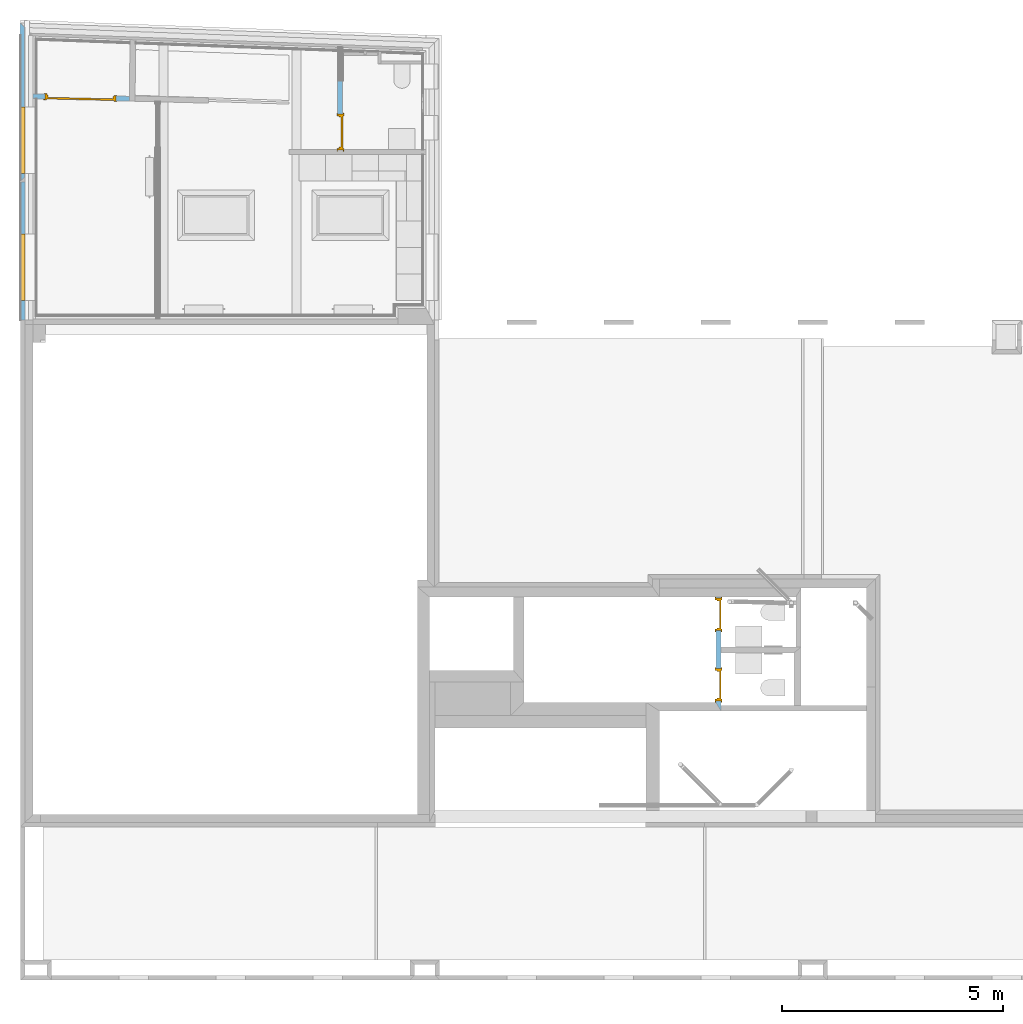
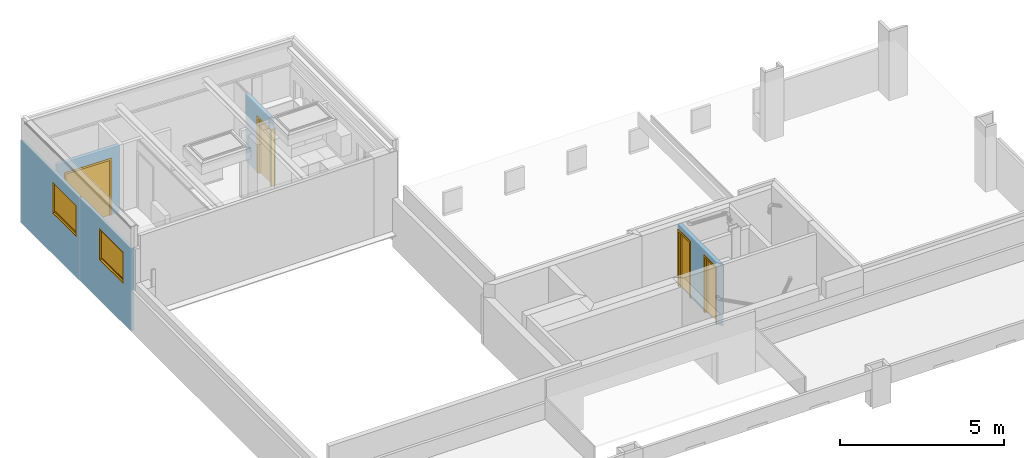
"""IFC2X3 building model written with IfcOpenShell, lengths in metres."""

from ifc_helpers import new_model, entity, si_unit, converted_unit, derived_unit, money_unit, direction, frame, frame_2d, origin_with_axes, place, context, subcontext, project, spatial, polyline, rectangle, outline, extrude, faceted_brep, material, layer, layer_set, layer_usage, type_object, element, fill, save


model = new_model("IFC2X3")

# Units and contexts
model_context = context("Model", 3, precision=1e-05, world=origin_with_axes(), true_north=direction((0.0, 1.0)))
body_context = subcontext(model_context, "Body", "Model", "MODEL_VIEW", scale=1.0)
ifc_project = project(units=[si_unit("LENGTHUNIT", "METRE"), si_unit("AREAUNIT", "SQUARE_METRE"), si_unit("VOLUMEUNIT", "CUBIC_METRE"), si_unit("ABSORBEDDOSEUNIT", "GRAY"), si_unit("AMOUNTOFSUBSTANCEUNIT", "MOLE"), si_unit("DOSEEQUIVALENTUNIT", "SIEVERT"), si_unit("ELECTRICCAPACITANCEUNIT", "FARAD"), si_unit("ELECTRICCHARGEUNIT", "COULOMB"), si_unit("ELECTRICCONDUCTANCEUNIT", "SIEMENS"), si_unit("ELECTRICCURRENTUNIT", "AMPERE"), si_unit("ELECTRICRESISTANCEUNIT", "OHM"), si_unit("ELECTRICVOLTAGEUNIT", "VOLT"), si_unit("ENERGYUNIT", "JOULE"), si_unit("FORCEUNIT", "NEWTON"), si_unit("FREQUENCYUNIT", "HERTZ"), si_unit("ILLUMINANCEUNIT", "LUX"), si_unit("INDUCTANCEUNIT", "HENRY"), si_unit("LUMINOUSFLUXUNIT", "LUMEN"), si_unit("LUMINOUSINTENSITYUNIT", "CANDELA"), si_unit("MAGNETICFLUXDENSITYUNIT", "TESLA"), si_unit("MAGNETICFLUXUNIT", "WEBER"), si_unit("MASSUNIT", "GRAM"), converted_unit("PLANEANGLEUNIT", "degree", entity("IfcReal", 0.0174532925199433), si_unit("PLANEANGLEUNIT", "RADIAN"), dimensions=[0, 0, 0, 0, 0, 0, 0]), si_unit("POWERUNIT", "WATT"), si_unit("PRESSUREUNIT", "PASCAL"), si_unit("RADIOACTIVITYUNIT", "BECQUEREL"), si_unit("SOLIDANGLEUNIT", "STERADIAN"), si_unit("THERMODYNAMICTEMPERATUREUNIT", "KELVIN"), si_unit("TIMEUNIT", "SECOND"), derived_unit("ACCELERATIONUNIT", [(si_unit("LENGTHUNIT", "METRE"), 1), (si_unit("TIMEUNIT", "SECOND"), -2)]), derived_unit("ANGULARVELOCITYUNIT", [(converted_unit("PLANEANGLEUNIT", "degree", entity("IfcReal", 0.0174532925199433), si_unit("PLANEANGLEUNIT", "RADIAN"), dimensions=[0, 0, 0, 0, 0, 0, 0]), 1), (si_unit("TIMEUNIT", "SECOND"), -1)]), derived_unit("CURVATUREUNIT", [(converted_unit("PLANEANGLEUNIT", "degree", entity("IfcReal", 0.0174532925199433), si_unit("PLANEANGLEUNIT", "RADIAN"), dimensions=[0, 0, 0, 0, 0, 0, 0]), 1), (si_unit("LENGTHUNIT", "METRE"), -1)]), derived_unit("DYNAMICVISCOSITYUNIT", [(si_unit("PRESSUREUNIT", "PASCAL"), 1), (si_unit("TIMEUNIT", "SECOND"), 1)]), derived_unit("HEATFLUXDENSITYUNIT", [(si_unit("POWERUNIT", "WATT"), 1), (si_unit("LENGTHUNIT", "METRE"), -2)]), derived_unit("HEATINGVALUEUNIT", [(si_unit("ENERGYUNIT", "JOULE"), 1), (si_unit("MASSUNIT", "GRAM"), -1)]), derived_unit("INTEGERCOUNTRATEUNIT", [(si_unit("TIMEUNIT", "SECOND"), -1)]), derived_unit("IONCONCENTRATIONUNIT", [(si_unit("MASSUNIT", "GRAM"), 1), (si_unit("VOLUMEUNIT", "CUBIC_METRE"), -1)]), derived_unit("ISOTHERMALMOISTURECAPACITYUNIT", [(si_unit("VOLUMEUNIT", "CUBIC_METRE"), 1), (si_unit("MASSUNIT", "GRAM"), -1)]), derived_unit("KINEMATICVISCOSITYUNIT", [(si_unit("AREAUNIT", "SQUARE_METRE"), 1), (si_unit("TIMEUNIT", "SECOND"), -1)]), derived_unit("LINEARFORCEUNIT", [(si_unit("FORCEUNIT", "NEWTON"), 1), (si_unit("LENGTHUNIT", "METRE"), -1)]), derived_unit("LINEARMOMENTUNIT", [(si_unit("FORCEUNIT", "NEWTON"), 1), (si_unit("LENGTHUNIT", "METRE"), -1)]), derived_unit("LINEARSTIFFNESSUNIT", [(si_unit("FORCEUNIT", "NEWTON"), 1), (si_unit("LENGTHUNIT", "METRE"), -1)]), derived_unit("LINEARVELOCITYUNIT", [(si_unit("LENGTHUNIT", "METRE"), 1), (si_unit("TIMEUNIT", "SECOND"), -1)]), derived_unit("LUMINOUSINTENSITYDISTRIBUTIONUNIT", [(si_unit("LUMINOUSINTENSITYUNIT", "CANDELA"), 1), (si_unit("LUMINOUSFLUXUNIT", "LUMEN"), -1)]), derived_unit("MASSDENSITYUNIT", [(si_unit("MASSUNIT", "GRAM"), 1), (si_unit("VOLUMEUNIT", "CUBIC_METRE"), -1)]), derived_unit("MASSFLOWRATEUNIT", [(si_unit("MASSUNIT", "GRAM"), 1), (si_unit("TIMEUNIT", "SECOND"), -1)]), derived_unit("MASSPERLENGTHUNIT", [(si_unit("MASSUNIT", "GRAM"), 1), (si_unit("LENGTHUNIT", "METRE"), -1)]), derived_unit("MODULUSOFELASTICITYUNIT", [(si_unit("FORCEUNIT", "NEWTON"), 1), (si_unit("AREAUNIT", "SQUARE_METRE"), -1)]), derived_unit("MODULUSOFLINEARSUBGRADEREACTIONUNIT", [(si_unit("FORCEUNIT", "NEWTON"), 1), (si_unit("LENGTHUNIT", "METRE"), -2)]), derived_unit("MODULUSOFROTATIONALSUBGRADEREACTIONUNIT", [(si_unit("FORCEUNIT", "NEWTON"), 1), (si_unit("LENGTHUNIT", "METRE"), 1)]), derived_unit("MODULUSOFSUBGRADEREACTIONUNIT", [(si_unit("FORCEUNIT", "NEWTON"), 1), (si_unit("VOLUMEUNIT", "CUBIC_METRE"), -1)]), derived_unit("MOISTUREDIFFUSIVITYUNIT", [(si_unit("VOLUMEUNIT", "CUBIC_METRE"), 1), (si_unit("TIMEUNIT", "SECOND"), -1)]), derived_unit("MOLECULARWEIGHTUNIT", [(si_unit("MASSUNIT", "GRAM"), 1), (si_unit("AMOUNTOFSUBSTANCEUNIT", "MOLE"), -1)]), derived_unit("PLANARFORCEUNIT", [(si_unit("FORCEUNIT", "NEWTON"), 1), (si_unit("LENGTHUNIT", "METRE"), -2)]), derived_unit("ROTATIONALFREQUENCYUNIT", [(si_unit("TIMEUNIT", "SECOND"), -1)]), derived_unit("ROTATIONALMASSUNIT", [(si_unit("MASSUNIT", "GRAM"), 1), (si_unit("LENGTHUNIT", "METRE"), 2)]), derived_unit("ROTATIONALSTIFFNESSUNIT", [(si_unit("FORCEUNIT", "NEWTON"), 1), (si_unit("LENGTHUNIT", "METRE"), 1), (converted_unit("PLANEANGLEUNIT", "degree", entity("IfcReal", 0.0174532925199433), si_unit("PLANEANGLEUNIT", "RADIAN"), dimensions=[0, 0, 0, 0, 0, 0, 0]), -1)]), derived_unit("SECTIONAREAINTEGRALUNIT", [(si_unit("LENGTHUNIT", "METRE"), 5)]), derived_unit("SECTIONMODULUSUNIT", [(si_unit("LENGTHUNIT", "METRE"), 3)]), derived_unit("SHEARMODULUSUNIT", [(si_unit("FORCEUNIT", "NEWTON"), 1), (si_unit("AREAUNIT", "SQUARE_METRE"), -1)]), derived_unit("SOUNDPOWERUNIT", [(si_unit("ENERGYUNIT", "JOULE"), 1), (si_unit("TIMEUNIT", "SECOND"), -1)]), derived_unit("SPECIFICHEATCAPACITYUNIT", [(si_unit("FORCEUNIT", "NEWTON"), 1), (si_unit("MASSUNIT", "GRAM"), -1), (si_unit("THERMODYNAMICTEMPERATUREUNIT", "KELVIN"), -1)]), derived_unit("TEMPERATUREGRADIENTUNIT", [(si_unit("THERMODYNAMICTEMPERATUREUNIT", "KELVIN"), 1), (si_unit("LENGTHUNIT", "METRE"), -1)]), derived_unit("THERMALADMITTANCEUNIT", [(si_unit("POWERUNIT", "WATT"), 1), (si_unit("AREAUNIT", "SQUARE_METRE"), -1), (si_unit("THERMODYNAMICTEMPERATUREUNIT", "KELVIN"), -1)]), derived_unit("THERMALCONDUCTANCEUNIT", [(si_unit("POWERUNIT", "WATT"), 1), (si_unit("LENGTHUNIT", "METRE"), -1), (si_unit("THERMODYNAMICTEMPERATUREUNIT", "KELVIN"), -1)]), derived_unit("THERMALEXPANSIONCOEFFICIENTUNIT", [(si_unit("THERMODYNAMICTEMPERATUREUNIT", "KELVIN"), -1)]), derived_unit("THERMALRESISTANCEUNIT", [(si_unit("AREAUNIT", "SQUARE_METRE"), 1), (si_unit("POWERUNIT", "WATT"), -1)]), derived_unit("THERMALTRANSMITTANCEUNIT", [(si_unit("POWERUNIT", "WATT"), 1), (si_unit("AREAUNIT", "SQUARE_METRE"), -1), (si_unit("THERMODYNAMICTEMPERATUREUNIT", "KELVIN"), -1)]), derived_unit("TORQUEUNIT", [(si_unit("FORCEUNIT", "NEWTON"), 1), (si_unit("LENGTHUNIT", "METRE"), 1)]), derived_unit("VAPORPERMEABILITYUNIT", [(si_unit("MASSUNIT", "GRAM"), 1), (si_unit("TIMEUNIT", "SECOND"), -1)]), derived_unit("VOLUMETRICFLOWRATEUNIT", [(si_unit("VOLUMEUNIT", "CUBIC_METRE"), 1), (si_unit("TIMEUNIT", "SECOND"), -1)]), derived_unit("WARPINGCONSTANTUNIT", [(si_unit("LENGTHUNIT", "METRE"), 6)]), derived_unit("WARPINGMOMENTUNIT", [(si_unit("FORCEUNIT", "NEWTON"), 1), (si_unit("LENGTHUNIT", "METRE"), 2)]), money_unit("GBP")], contexts=[model_context])

# Site, building, storey
site_placement = place(None, origin_with_axes())
site = spatial("IfcSite", under=ifc_project, at=site_placement, Name="Site", CompositionType="ELEMENT")
building_placement = place(site_placement, origin_with_axes())
building = spatial("IfcBuilding", under=site, at=building_placement, Name="Building01", CompositionType="ELEMENT")
storey_1_placement = place(building_placement, frame((0.0, 0.0, 2.6), z_axis=(0.0, 0.0, 1.0), x_axis=(1.0, 0.0, 0.0)))
storey_1 = spatial("IfcBuildingStorey", under=building, at=storey_1_placement, Name="MF", CompositionType="ELEMENT", Elevation=2.6)

# Wall, opening
ifc_material_1 = material(Name="A_BSUK_WallsExternal_Brick")
ifc_layer_1 = layer(ifc_material_1, 0.1, ventilated=False)
ifc_layer_set_1 = layer_set([ifc_layer_1])
ifc_layer_usage_1 = layer_usage(ifc_layer_set_1, "AXIS2", "POSITIVE", 0.0)
wall_type_1 = type_object("IfcWallType", Name="A-Walls-ExternalBrick", PredefinedType="NOTDEFINED")
wall_1_placement = place(storey_1_placement, frame((-0.013684, 21.61325, 0.0), z_axis=(0.0, 0.0, 1.0), x_axis=(0.0, -1.0, 0.0)))
wall_1 = element("IfcWallStandardCase", 1, at=wall_1_placement, inside=storey_1, type_object=wall_type_1, material=ifc_layer_usage_1, Name="A-Walls-ExternalBrick", ObjectType="A-Walls-ExternalBrick", context=body_context, shape_type="SweptSolid", body=[
    extrude(outline(polyline([(3.493021, 0.1), (0.103779, 0.1), (0.0, 0.0), (3.593021, 0.0), (3.493021, 0.1)])), origin_with_axes(), (0.0, 0.0, 1.0), 3.085),
])
opening_1_placement = place(wall_1_placement, frame((1.899002, 0.0, 1.485), z_axis=(0.0, 0.0, 1.0), x_axis=(1.0, 0.0, 0.0)))
opening_1 = element("IfcOpeningElement", 2, at=opening_1_placement, cuts=wall_1, Name="Opening", ObjectType="Opening", context=body_context, shape_type="SweptSolid", body=[
    extrude(rectangle(XDim=1.2, YDim=1.5, at=frame_2d((-0.75, 0.6), x_axis=(0.0, -1.0))), frame((0.0, 0.0, 0.0), z_axis=(0.0, 1.0, 0.0), x_axis=(-1.0, 0.0, 0.0)), (0.0, 0.0, 1.0), 0.1),
])

# Space
space_1_placement = place(storey_1_placement, frame((0.352777, 15.705689, 0.606989), z_axis=(0.0, 0.0, 1.0), x_axis=(0.0, -1.0, 0.0)))
space_1 = spatial("IfcSpace", under=storey_1, at=space_1_placement, Name="2", CompositionType="ELEMENT", InteriorOrExteriorSpace="NOTDEFINED")

# Window
ifc_material_2 = material(Name="A_BSUK_Windows")
window_style = type_object("IfcWindowStyle", Name="A-Awning", ConstructionType="NOTDEFINED", OperationType="USERDEFINED", ParameterTakesPrecedence=False, Sizeable=False)
window_1_placement = place(opening_1_placement, frame((1.5, 0.142762, 0.0), z_axis=(0.0, 0.0, 1.0), x_axis=(-1.0, 0.0, 0.0)))
window_1 = element("IfcWindow", 3, at=window_1_placement, inside=space_1, type_object=window_style, material=ifc_material_2, Name="0.19", ObjectType="A-Awning", OverallHeight=1.2, OverallWidth=1.5, context=body_context, shape_type="Brep", body=[
    faceted_brep([(1.458, 0.1254, 0.042), (0.042, 0.1254, 0.042), (0.042, 0.0254, 0.042), (1.458, 0.0254, 0.042), (1.458, 0.1254, 1.158), (1.458, 0.0254, 1.158), (0.042, 0.1254, 1.158), (0.042, 0.0254, 1.158), (1.5, 0.0254, 0.0), (1.5, 0.0254, 1.2), (0.0, 0.0254, 1.2), (0.0, 0.0254, 0.0), (1.5, 0.1254, 1.2), (0.0, 0.1254, 1.2), (0.0, 0.1254, 0.0), (1.5, 0.1254, 0.0)], [[[0, 1, 2, 3]], [[4, 0, 3, 5]], [[6, 4, 5, 7]], [[8, 9, 10, 11], [3, 2, 7, 5]], [[1, 6, 7, 2]], [[10, 9, 12, 13]], [[8, 11, 14, 15]], [[9, 8, 15, 12]], [[15, 14, 13, 12], [0, 4, 6, 1]], [[11, 10, 13, 14]]]),
    faceted_brep([(1.4072, 0.0704, 0.0928), (0.0928, 0.0704, 0.0928), (0.0928, 0.0354, 0.0928), (1.4072, 0.0354, 0.0928), (1.4072, 0.0704, 1.1072), (1.4072, 0.0354, 1.1072), (0.0928, 0.0704, 1.1072), (0.0928, 0.0354, 1.1072), (1.458, 0.0704, 0.042), (0.042, 0.0704, 0.042), (0.042, 0.0704, 1.158), (1.458, 0.0704, 1.158), (0.042, 0.0354, 1.158), (1.458, 0.0354, 1.158), (0.042, 0.0354, 0.042), (1.458, 0.0354, 0.042)], [[[0, 1, 2, 3]], [[4, 0, 3, 5]], [[6, 4, 5, 7]], [[8, 9, 10, 11], [0, 4, 6, 1]], [[12, 13, 11, 10]], [[14, 12, 10, 9]], [[15, 14, 9, 8]], [[13, 15, 8, 11]], [[15, 13, 12, 14], [3, 2, 7, 5]], [[1, 6, 7, 2]]]),
    faceted_brep([(0.0928, 0.049725, 1.1072), (0.0928, 0.056075, 1.1072), (0.0928, 0.056075, 0.0928), (0.0928, 0.049725, 0.0928), (1.4072, 0.049725, 0.0928), (1.4072, 0.056075, 0.0928), (1.4072, 0.056075, 1.1072), (1.4072, 0.049725, 1.1072)], [[[0, 1, 2, 3]], [[4, 5, 6, 7]], [[7, 6, 1, 0]], [[3, 4, 7, 0]], [[3, 2, 5, 4]], [[1, 6, 5, 2]]]),
])

fill(opening_1, window_1)

# Wall, opening, window
wall_2_placement = place(storey_1_placement, frame((0.000679, 18.020229, 0.0), z_axis=(0.0, 0.0, 1.0), x_axis=(0.0, -1.0, 0.0)))
wall_2 = element("IfcWallStandardCase", 4, at=wall_2_placement, inside=storey_1, type_object=wall_type_1, material=ifc_layer_usage_1, Name="A-Walls-ExternalBrick", ObjectType="A-Walls-ExternalBrick", context=body_context, shape_type="SweptSolid", body=[
    extrude(rectangle(XDim=3.120229, YDim=0.1, at=frame_2d((1.560114, 0.05), x_axis=(-1.0, 0.0))), origin_with_axes(), (0.0, 0.0, 1.0), 3.085),
])
opening_2_placement = place(wall_2_placement, frame((1.177439, 0.0, 1.485), z_axis=(0.0, 0.0, 1.0), x_axis=(1.0, 0.0, 0.0)))
opening_2 = element("IfcOpeningElement", 5, at=opening_2_placement, cuts=wall_2, Name="Opening", ObjectType="Opening", context=body_context, shape_type="SweptSolid", body=[
    extrude(rectangle(XDim=1.2, YDim=1.5, at=frame_2d((-0.75, 0.6), x_axis=(0.0, -1.0))), frame((0.0, 0.0, 0.0), z_axis=(0.0, 1.0, 0.0), x_axis=(-1.0, 0.0, 0.0)), (0.0, 0.0, 1.0), 0.1),
])
window_2_placement = place(opening_2_placement, frame((1.5, 0.1284, 0.0), z_axis=(0.0, 0.0, 1.0), x_axis=(-1.0, 0.0, 0.0)))
window_2 = element("IfcWindow", 6, at=window_2_placement, inside=space_1, type_object=window_style, material=ifc_material_2, Name="0.20", ObjectType="A-Awning", OverallHeight=1.2, OverallWidth=1.5, context=body_context, shape_type="Brep", body=[
    faceted_brep([(1.458, 0.1254, 0.042), (0.042, 0.1254, 0.042), (0.042, 0.0254, 0.042), (1.458, 0.0254, 0.042), (1.458, 0.1254, 1.158), (1.458, 0.0254, 1.158), (0.042, 0.1254, 1.158), (0.042, 0.0254, 1.158), (1.5, 0.0254, 0.0), (1.5, 0.0254, 1.2), (0.0, 0.0254, 1.2), (0.0, 0.0254, 0.0), (1.5, 0.1254, 1.2), (0.0, 0.1254, 1.2), (0.0, 0.1254, 0.0), (1.5, 0.1254, 0.0)], [[[0, 1, 2, 3]], [[4, 0, 3, 5]], [[6, 4, 5, 7]], [[8, 9, 10, 11], [3, 2, 7, 5]], [[1, 6, 7, 2]], [[10, 9, 12, 13]], [[8, 11, 14, 15]], [[9, 8, 15, 12]], [[15, 14, 13, 12], [0, 4, 6, 1]], [[11, 10, 13, 14]]]),
    faceted_brep([(1.4072, 0.0704, 0.0928), (0.0928, 0.0704, 0.0928), (0.0928, 0.0354, 0.0928), (1.4072, 0.0354, 0.0928), (1.4072, 0.0704, 1.1072), (1.4072, 0.0354, 1.1072), (0.0928, 0.0704, 1.1072), (0.0928, 0.0354, 1.1072), (1.458, 0.0704, 0.042), (0.042, 0.0704, 0.042), (0.042, 0.0704, 1.158), (1.458, 0.0704, 1.158), (0.042, 0.0354, 1.158), (1.458, 0.0354, 1.158), (0.042, 0.0354, 0.042), (1.458, 0.0354, 0.042)], [[[0, 1, 2, 3]], [[4, 0, 3, 5]], [[6, 4, 5, 7]], [[8, 9, 10, 11], [0, 4, 6, 1]], [[12, 13, 11, 10]], [[14, 12, 10, 9]], [[15, 14, 9, 8]], [[13, 15, 8, 11]], [[15, 13, 12, 14], [3, 2, 7, 5]], [[1, 6, 7, 2]]]),
    faceted_brep([(0.0928, 0.049725, 1.1072), (0.0928, 0.056075, 1.1072), (0.0928, 0.056075, 0.0928), (0.0928, 0.049725, 0.0928), (1.4072, 0.049725, 0.0928), (1.4072, 0.056075, 0.0928), (1.4072, 0.056075, 1.1072), (1.4072, 0.049725, 1.1072)], [[[0, 1, 2, 3]], [[4, 5, 6, 7]], [[7, 6, 1, 0]], [[3, 4, 7, 0]], [[3, 2, 5, 4]], [[1, 6, 5, 2]]]),
])
fill(opening_2, window_2)

# Wall, openings
ifc_material_3 = material(Name="A_BSUK_WallsExternal_Block")
ifc_layer_2 = layer(ifc_material_3, 0.118, ventilated=False)
ifc_layer_set_2 = layer_set([ifc_layer_2])
ifc_layer_usage_2 = layer_usage(ifc_layer_set_2, "AXIS2", "POSITIVE", 0.0)
wall_type_2 = type_object("IfcWallType", Name="A-Walls-ExternalBlock", PredefinedType="NOTDEFINED")
wall_3_placement = place(storey_1_placement, frame((15.698265, 8.64741, 0.0), z_axis=(0.0, 0.0, 1.0), x_axis=(0.0, -1.0, 0.0)))
wall_3 = element("IfcWallStandardCase", 7, at=wall_3_placement, inside=storey_1, type_object=wall_type_2, material=ifc_layer_usage_2, Name="A-Walls-ExternalBlock", ObjectType="A-Walls-ExternalBlock", context=body_context, shape_type="SweptSolid", body=[
    extrude(outline(polyline([(2.570426, 0.118), (0.0, 0.118), (0.0, 0.0), (2.376426, 0.0), (2.570426, 0.118)])), origin_with_axes(), (0.0, 0.0, 1.0), 2.3),
])
opening_3_placement = place(wall_3_placement, frame((1.615426, 0.0, 0.0), z_axis=(0.0, 0.0, 1.0), x_axis=(1.0, 0.0, 0.0)))
opening_3 = element("IfcOpeningElement", 8, at=opening_3_placement, cuts=wall_3, Name="Opening", ObjectType="Opening", context=body_context, shape_type="SweptSolid", body=[
    extrude(rectangle(XDim=2.1, YDim=0.734, at=frame_2d((-0.367, 1.05), x_axis=(0.0, -1.0))), frame((0.0, 0.0, 0.0), z_axis=(0.0, 1.0, 0.0), x_axis=(-1.0, 0.0, 0.0)), (0.0, 0.0, 1.0), 0.118),
])
opening_4_placement = place(wall_3_placement, frame((0.027, 0.0, 0.0), z_axis=(0.0, 0.0, 1.0), x_axis=(1.0, 0.0, 0.0)))
opening_4 = element("IfcOpeningElement", 9, at=opening_4_placement, cuts=wall_3, Name="Opening", ObjectType="Opening", context=body_context, shape_type="SweptSolid", body=[
    extrude(rectangle(XDim=2.1, YDim=0.734, at=frame_2d((-0.367, 1.05), x_axis=(0.0, -1.0))), frame((0.0, 0.0, 0.0), z_axis=(0.0, 1.0, 0.0), x_axis=(-1.0, 0.0, 0.0)), (0.0, 0.0, 1.0), 0.118),
])

# Storey, space
storey_2_placement = place(building_placement, origin_with_axes())
storey_2 = spatial("IfcBuildingStorey", under=building, at=storey_2_placement, Name="GF", CompositionType="ELEMENT", Elevation=0.0)
space_2_placement = place(storey_2_placement, frame((9.419099, 6.725761, 0.0), z_axis=(0.0, 0.0, 1.0), x_axis=(0.0, -1.0, 0.0)))
space_2 = spatial("IfcSpace", under=storey_2, at=space_2_placement, Name="ENTRANCE", CompositionType="ELEMENT", InteriorOrExteriorSpace="NOTDEFINED")

# Door
ifc_material_4 = material(Name="A_BSUK_Doors")
door_style_1 = type_object("IfcDoorStyle", Name="A-Doors-SingleFlush", ConstructionType="USERDEFINED", OperationType="SINGLE_SWING_LEFT", ParameterTakesPrecedence=False, Sizeable=False)
door_1_placement = place(opening_4_placement, frame((0.042, 0.118, 0.0), z_axis=(0.0, 0.0, 1.0), x_axis=(1.0, 0.0, 0.0)))
door_1 = element("IfcDoor", 10, at=door_1_placement, inside=space_2, type_object=door_style_1, material=ifc_material_4, Name="0.20", ObjectType="A-Doors-SingleFlush", OverallHeight=2.1, OverallWidth=0.734, context=body_context, shape_type="Brep", body=[
    faceted_brep([(0.0, -0.137, 2.058), (0.65, -0.137, 2.058), (0.65, -0.137, 0.0), (0.719, -0.137, 0.0), (0.719, -0.137, 2.127), (-0.069, -0.137, 2.127), (-0.069, -0.137, 0.0), (0.0, -0.137, 0.0), (0.719, -0.118, 2.127), (0.719, -0.118, 0.0), (-0.069, -0.118, 0.0), (-0.069, -0.118, 2.127), (-0.042, -0.118, 0.0), (-0.042, 0.0, 0.0), (-0.069, 0.0, 0.0), (-0.069, 0.019, 0.0), (0.0, 0.019, 0.0), (0.0, 0.019, 2.058), (0.65, 0.019, 2.058), (-0.069, 0.019, 2.127), (0.719, 0.019, 2.127), (0.719, 0.019, 0.0), (0.65, 0.019, 0.0), (-0.069, 0.0, 2.127), (-0.042, 0.0, 2.1), (-0.042, -0.118, 2.1), (0.692, 0.0, 2.1), (0.692, -0.118, 2.1), (0.692, -0.118, 0.0), (0.692, 0.0, 0.0), (0.719, 0.0, 0.0), (0.719, 0.0, 2.127)], [[[0, 1, 2, 3, 4, 5, 6, 7]], [[8, 4, 3, 9]], [[10, 6, 5, 11]], [[11, 5, 4, 8]], [[7, 6, 10, 12, 13, 14, 15, 16]], [[7, 16, 17, 0]], [[0, 17, 18, 1]], [[17, 16, 15, 19, 20, 21, 22, 18]], [[1, 18, 22, 2]], [[14, 23, 19, 15]], [[24, 13, 12, 25]], [[26, 24, 25, 27]], [[11, 8, 9, 28, 27, 25, 12, 10]], [[27, 28, 29, 26]], [[26, 29, 30, 31, 23, 14, 13, 24]], [[22, 21, 30, 29, 28, 9, 3, 2]], [[30, 21, 20, 31]], [[31, 20, 19, 23]]]),
    faceted_brep([(0.65, -0.09, 0.0), (0.65, -0.04, 0.0), (0.65, -0.04, 2.058), (0.65, -0.09, 2.058), (0.025, -0.09, 2.033), (0.625, -0.09, 2.033), (0.625, -0.09, 0.0), (0.0, -0.09, 2.058), (0.0, -0.09, 0.0), (0.025, -0.09, 0.0), (0.0, -0.04, 0.0), (0.025, -0.04, 0.0), (0.0, -0.04, 2.058), (0.025, -0.04, 2.033), (0.625, -0.04, 0.0), (0.625, -0.04, 2.033)], [[[0, 1, 2, 3]], [[4, 5, 6, 0, 3, 7, 8, 9]], [[9, 8, 10, 11]], [[3, 2, 12, 7]], [[7, 12, 10, 8]], [[13, 11, 10, 12, 2, 1, 14, 15]], [[5, 15, 14, 6]], [[14, 1, 0, 6]], [[9, 11, 13, 4]], [[4, 13, 15, 5]]]),
    faceted_brep([(0.0, -0.04, 2.058), (0.0, 0.0, 2.058), (0.0, 0.0, 0.0), (0.0, -0.04, 0.0), (0.65, -0.04, 0.0), (0.65, 0.0, 0.0), (0.65, 0.0, 2.058), (0.65, -0.04, 2.058)], [[[0, 1, 2, 3]], [[4, 5, 6, 7]], [[3, 2, 5, 4]], [[3, 4, 7, 0]], [[7, 6, 1, 0]], [[1, 6, 5, 2]]]),
])

fill(opening_4, door_1)

door_style_2 = type_object("IfcDoorStyle", Name="A-Doors-SingleFlush", ConstructionType="USERDEFINED", OperationType="SINGLE_SWING_RIGHT", ParameterTakesPrecedence=False, Sizeable=False)
door_2_placement = place(opening_3_placement, frame((0.042, 0.118, 0.0), z_axis=(0.0, 0.0, 1.0), x_axis=(1.0, 0.0, 0.0)))
door_2 = element("IfcDoor", 11, at=door_2_placement, inside=space_2, type_object=door_style_2, material=ifc_material_4, Name="0.19", ObjectType="A-Doors-SingleFlush", OverallHeight=2.1, OverallWidth=0.734, context=body_context, shape_type="Brep", body=[
    faceted_brep([(0.65, -0.137, 0.0), (0.719, -0.137, 0.0), (0.719, -0.137, 2.127), (-0.069, -0.137, 2.127), (-0.069, -0.137, 0.0), (0.0, -0.137, 0.0), (0.0, -0.137, 2.058), (0.65, -0.137, 2.058), (-0.069, -0.118, 0.0), (-0.069, -0.118, 2.127), (0.719, -0.118, 2.127), (0.719, -0.118, 0.0), (0.65, 0.019, 0.0), (0.719, 0.019, 0.0), (0.719, 0.0, 0.0), (0.692, 0.0, 0.0), (0.692, -0.118, 0.0), (0.65, 0.019, 2.058), (0.0, 0.019, 2.058), (0.0, 0.019, 0.0), (-0.069, 0.019, 0.0), (-0.069, 0.019, 2.127), (0.719, 0.019, 2.127), (0.719, 0.0, 2.127), (0.692, -0.118, 2.1), (0.692, 0.0, 2.1), (-0.042, -0.118, 2.1), (-0.042, 0.0, 2.1), (-0.042, -0.118, 0.0), (-0.042, 0.0, 0.0), (-0.069, 0.0, 2.127), (-0.069, 0.0, 0.0)], [[[0, 1, 2, 3, 4, 5, 6, 7]], [[8, 4, 3, 9]], [[10, 2, 1, 11]], [[9, 3, 2, 10]], [[12, 13, 14, 15, 16, 11, 1, 0]], [[7, 17, 12, 0]], [[6, 18, 17, 7]], [[18, 19, 20, 21, 22, 13, 12, 17]], [[5, 19, 18, 6]], [[13, 22, 23, 14]], [[24, 16, 15, 25]], [[26, 24, 25, 27]], [[11, 16, 24, 26, 28, 8, 9, 10]], [[27, 29, 28, 26]], [[25, 15, 14, 23, 30, 31, 29, 27]], [[5, 4, 8, 28, 29, 31, 20, 19]], [[30, 21, 20, 31]], [[23, 22, 21, 30]]]),
    faceted_brep([(0.0, -0.09, 2.058), (0.0, -0.04, 2.058), (0.0, -0.04, 0.0), (0.0, -0.09, 0.0), (0.625, -0.09, 0.0), (0.65, -0.09, 0.0), (0.65, -0.09, 2.058), (0.025, -0.09, 0.0), (0.025, -0.09, 2.033), (0.625, -0.09, 2.033), (0.625, -0.04, 0.0), (0.65, -0.04, 0.0), (0.65, -0.04, 2.058), (0.025, -0.04, 2.033), (0.025, -0.04, 0.0), (0.625, -0.04, 2.033)], [[[0, 1, 2, 3]], [[4, 5, 6, 0, 3, 7, 8, 9]], [[10, 11, 5, 4]], [[6, 12, 1, 0]], [[5, 11, 12, 6]], [[13, 14, 2, 1, 12, 11, 10, 15]], [[7, 14, 13, 8]], [[7, 3, 2, 14]], [[9, 15, 10, 4]], [[8, 13, 15, 9]]]),
    faceted_brep([(0.65, -0.04, 0.0), (0.65, 0.0, 0.0), (0.65, 0.0, 2.058), (0.65, -0.04, 2.058), (0.0, -0.04, 2.058), (0.0, 0.0, 2.058), (0.0, 0.0, 0.0), (0.0, -0.04, 0.0)], [[[0, 1, 2, 3]], [[4, 5, 6, 7]], [[7, 6, 1, 0]], [[3, 4, 7, 0]], [[3, 2, 5, 4]], [[1, 6, 5, 2]]]),
])

fill(opening_3, door_2)

# Wall, opening
ifc_material_5 = material(Name="A_BSUK_WallsInternal")
ifc_layer_3 = layer(ifc_material_5, 0.108, ventilated=False)
ifc_layer_set_3 = layer_set([ifc_layer_3])
ifc_layer_usage_3 = layer_usage(ifc_layer_set_3, "AXIS2", "POSITIVE", 0.0)
wall_type_3 = type_object("IfcWallType", Name="A-Walls-Internal", PredefinedType="NOTDEFINED")
wall_4_placement = place(storey_1_placement, frame((0.280897, 19.90157, 0.585), z_axis=(0.0, 0.0, 1.0), x_axis=(0.99967157, -0.02562735, 0.0)))
wall_4 = element("IfcWallStandardCase", 12, at=wall_4_placement, inside=storey_1, type_object=wall_type_3, material=ifc_layer_usage_3, Name="A-Walls-Internal", ObjectType="A-Walls-Internal", context=body_context, shape_type="SweptSolid", body=[
    extrude(outline(polyline([(2.171217, 0.108), (-0.002769, 0.108), (0.0, 0.0), (2.172534, 0.0), (2.171217, 0.108)])), origin_with_axes(), (0.0, 0.0, 1.0), 2.5),
])
opening_5_placement = place(wall_4_placement, frame((0.266957, 0.0, 0.0), z_axis=(0.0, 0.0, 1.0), x_axis=(1.0, 0.0, 0.0)))
opening_5 = element("IfcOpeningElement", 13, at=opening_5_placement, cuts=wall_4, Name="Opening", ObjectType="Opening", context=body_context, shape_type="Brep", body=[
    faceted_brep([(1.604261, 0.0, 0.0), (1.604261, 0.0, 2.1), (0.000256, 0.0, 2.1), (0.000256, 0.0, 0.0), (1.604005, 0.108, 2.1), (1.604005, 0.108, 0.0), (0.0, 0.108, 0.0), (0.0, 0.108, 2.1)], [[[0, 1, 2, 3]], [[4, 5, 6, 7]], [[5, 0, 3, 6]], [[4, 1, 0, 5]], [[7, 2, 1, 4]], [[6, 3, 2, 7]]]),
])

# Space
space_3_placement = place(storey_1_placement, frame((0.352897, 21.240404, 0.585), z_axis=(0.0, 0.0, 1.0), x_axis=(-1.921e-05, -1.0, 0.0)))
space_3 = spatial("IfcSpace", under=storey_1, at=space_3_placement, Name="01", CompositionType="ELEMENT", InteriorOrExteriorSpace="NOTDEFINED")

# Door
door_style_3 = type_object("IfcDoorStyle", Name="A-Doors-DoubleFlush", ConstructionType="USERDEFINED", OperationType="DOUBLE_DOOR_SINGLE_SWING", ParameterTakesPrecedence=False, Sizeable=False)
door_3_placement = place(opening_5_placement, frame((1.562252, 0.003705, 0.0), z_axis=(0.0, 0.0, 1.0), x_axis=(-0.99999719, -0.00237186, 0.0)))
door_3 = element("IfcDoor", 14, at=door_3_placement, inside=space_3, type_object=door_style_3, material=ifc_material_4, Name="0.23", ObjectType="A-Doors-DoubleFlush", OverallHeight=2.12700000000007, OverallWidth=1.65800000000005, context=body_context, shape_type="Brep", body=[
    faceted_brep([(1.52, -0.119, 0.0), (1.589, -0.119, 0.0), (1.589, -0.119, 2.127), (-0.069, -0.119, 2.127), (-0.069, -0.119, 0.0), (0.0, -0.119, 0.0), (0.0, -0.119, 2.058), (1.52, -0.119, 2.058), (-0.069, -0.1, 0.0), (-0.069, -0.1, 2.127), (1.589, -0.1, 2.127), (1.589, -0.1, 0.0), (1.52, 0.019, 0.0), (1.589, 0.019, 0.0), (1.589, 0.0, 0.0), (1.562, 0.0, 0.0), (1.562, -0.1, 0.0), (1.52, 0.019, 2.058), (0.0, 0.019, 2.058), (0.0, 0.019, 0.0), (-0.069, 0.019, 0.0), (-0.069, 0.019, 2.127), (1.589, 0.019, 2.127), (1.589, 0.0, 2.127), (1.562, -0.1, 2.1), (1.562, 0.0, 2.1), (-0.042, -0.1, 2.1), (-0.042, 0.0, 2.1), (-0.042, -0.1, 0.0), (-0.042, 0.0, 0.0), (-0.069, 0.0, 2.127), (-0.069, 0.0, 0.0)], [[[0, 1, 2, 3, 4, 5, 6, 7]], [[8, 4, 3, 9]], [[10, 2, 1, 11]], [[9, 3, 2, 10]], [[12, 13, 14, 15, 16, 11, 1, 0]], [[7, 17, 12, 0]], [[6, 18, 17, 7]], [[18, 19, 20, 21, 22, 13, 12, 17]], [[5, 19, 18, 6]], [[13, 22, 23, 14]], [[24, 16, 15, 25]], [[26, 24, 25, 27]], [[11, 16, 24, 26, 28, 8, 9, 10]], [[27, 29, 28, 26]], [[25, 15, 14, 23, 30, 31, 29, 27]], [[5, 4, 8, 28, 29, 31, 20, 19]], [[30, 21, 20, 31]], [[23, 22, 21, 30]]]),
    faceted_brep([(0.0, -0.09, 2.058), (0.0, -0.04, 2.058), (0.0, -0.04, 0.0), (0.0, -0.09, 0.0), (1.495, -0.09, 0.0), (1.52, -0.09, 0.0), (1.52, -0.09, 2.058), (0.025, -0.09, 0.0), (0.025, -0.09, 2.033), (1.495, -0.09, 2.033), (1.495, -0.04, 0.0), (1.52, -0.04, 0.0), (1.52, -0.04, 2.058), (0.025, -0.04, 2.033), (0.025, -0.04, 0.0), (1.495, -0.04, 2.033)], [[[0, 1, 2, 3]], [[4, 5, 6, 0, 3, 7, 8, 9]], [[10, 11, 5, 4]], [[6, 12, 1, 0]], [[5, 11, 12, 6]], [[13, 14, 2, 1, 12, 11, 10, 15]], [[7, 14, 13, 8]], [[7, 3, 2, 14]], [[9, 15, 10, 4]], [[8, 13, 15, 9]]]),
    faceted_brep([(1.52, -0.04, 0.0), (1.52, 0.0, 0.0), (1.52, 0.0, 2.058), (1.52, -0.04, 2.058), (0.76, -0.04, 2.058), (0.76, 0.0, 2.058), (0.76, 0.0, 0.0), (0.76, -0.04, 0.0)], [[[0, 1, 2, 3]], [[4, 5, 6, 7]], [[7, 6, 1, 0]], [[3, 4, 7, 0]], [[3, 2, 5, 4]], [[1, 6, 5, 2]]]),
    faceted_brep([(0.76, -0.04, 0.0), (0.76, 0.0, 0.0), (0.76, 0.0, 2.058), (0.76, -0.04, 2.058), (0.0, -0.04, 2.058), (0.0, 0.0, 2.058), (0.0, 0.0, 0.0), (0.0, -0.04, 0.0)], [[[0, 1, 2, 3]], [[4, 5, 6, 7]], [[7, 6, 1, 0]], [[3, 4, 7, 0]], [[3, 2, 5, 4]], [[1, 6, 5, 2]]]),
])

fill(opening_5, door_3)

# Wall, opening, door
ifc_layer_4 = layer(ifc_material_5, 0.113, ventilated=False)
ifc_layer_set_4 = layer_set([ifc_layer_4])
ifc_layer_usage_4 = layer_usage(ifc_layer_set_4, "AXIS2", "POSITIVE", 0.0)
wall_5_placement = place(storey_1_placement, frame((7.275966, 18.752607, 0.585), z_axis=(0.0, 0.0, 1.0), x_axis=(-0.00272299, 0.99999629, 0.0)))
wall_5 = element("IfcWallStandardCase", 15, at=wall_5_placement, inside=storey_1, type_object=wall_type_3, material=ifc_layer_usage_4, Name="A-Walls-Internal", ObjectType="A-Walls-Internal", context=body_context, shape_type="SweptSolid", body=[
    extrude(outline(polyline([(0.000308, 0.113), (0.0, 0.0), (1.549119, 0.0), (1.549119, 0.113), (0.000308, 0.113)])), origin_with_axes(), (0.0, 0.0, 1.0), 2.5),
])
opening_6_placement = place(wall_5_placement, origin_with_axes())
opening_6 = element("IfcOpeningElement", 16, at=opening_6_placement, cuts=wall_5, Name="Opening", ObjectType="Opening", context=body_context, shape_type="Brep", body=[
    faceted_brep([(0.799813, 0.113, 2.1), (0.799813, 0.113, 0.0), (0.000308, 0.113, 0.0), (0.000308, 0.113, 2.1), (0.0, 0.0, 2.1), (0.0, 0.0, 0.0), (0.799506, 0.0, 0.0), (0.799506, 0.0, 2.1)], [[[0, 1, 2, 3]], [[4, 3, 2, 5]], [[6, 7, 4, 5]], [[1, 6, 5, 2]], [[0, 7, 6, 1]], [[4, 7, 0, 3]]]),
])
door_style_4 = type_object("IfcDoorStyle", Name="A-Doors-SingleFlush", ConstructionType="USERDEFINED", OperationType="SINGLE_SWING_RIGHT", ParameterTakesPrecedence=False, Sizeable=False)
door_4_placement = place(opening_6_placement, frame((0.75749, -0.005704, 0.0), z_axis=(0.0, 0.0, 1.0), x_axis=(-0.99999629, 0.00272299, 0.0)))
door_4 = element("IfcDoor", 17, at=door_4_placement, inside=space_3, type_object=door_style_4, material=ifc_material_4, Name="0.21", ObjectType="A-Doors-SingleFlush", OverallHeight=2.12700000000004, OverallWidth=0.868000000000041, context=body_context, shape_type="Brep", body=[
    faceted_brep([(0.73, -0.139, 0.0), (0.799, -0.139, 0.0), (0.799, -0.139, 2.127), (-0.069, -0.139, 2.127), (-0.069, -0.139, 0.0), (0.0, -0.139, 0.0), (0.0, -0.139, 2.058), (0.73, -0.139, 2.058), (-0.069, -0.12, 0.0), (-0.069, -0.12, 2.127), (0.799, -0.12, 2.127), (0.799, -0.12, 0.0), (0.73, 0.019, 0.0), (0.799, 0.019, 0.0), (0.799, 0.0, 0.0), (0.772, 0.0, 0.0), (0.772, -0.12, 0.0), (0.73, 0.019, 2.058), (0.0, 0.019, 2.058), (0.0, 0.019, 0.0), (-0.069, 0.019, 0.0), (-0.069, 0.019, 2.127), (0.799, 0.019, 2.127), (0.799, 0.0, 2.127), (0.772, -0.12, 2.1), (0.772, 0.0, 2.1), (-0.042, -0.12, 2.1), (-0.042, 0.0, 2.1), (-0.042, -0.12, 0.0), (-0.042, 0.0, 0.0), (-0.069, 0.0, 2.127), (-0.069, 0.0, 0.0)], [[[0, 1, 2, 3, 4, 5, 6, 7]], [[8, 4, 3, 9]], [[10, 2, 1, 11]], [[9, 3, 2, 10]], [[12, 13, 14, 15, 16, 11, 1, 0]], [[7, 17, 12, 0]], [[6, 18, 17, 7]], [[18, 19, 20, 21, 22, 13, 12, 17]], [[5, 19, 18, 6]], [[13, 22, 23, 14]], [[24, 16, 15, 25]], [[26, 24, 25, 27]], [[11, 16, 24, 26, 28, 8, 9, 10]], [[27, 29, 28, 26]], [[25, 15, 14, 23, 30, 31, 29, 27]], [[5, 4, 8, 28, 29, 31, 20, 19]], [[30, 21, 20, 31]], [[23, 22, 21, 30]]]),
    faceted_brep([(0.0, -0.09, 2.058), (0.0, -0.04, 2.058), (0.0, -0.04, 0.0), (0.0, -0.09, 0.0), (0.705, -0.09, 0.0), (0.73, -0.09, 0.0), (0.73, -0.09, 2.058), (0.025, -0.09, 0.0), (0.025, -0.09, 2.033), (0.705, -0.09, 2.033), (0.705, -0.04, 0.0), (0.73, -0.04, 0.0), (0.73, -0.04, 2.058), (0.025, -0.04, 2.033), (0.025, -0.04, 0.0), (0.705, -0.04, 2.033)], [[[0, 1, 2, 3]], [[4, 5, 6, 0, 3, 7, 8, 9]], [[10, 11, 5, 4]], [[6, 12, 1, 0]], [[5, 11, 12, 6]], [[13, 14, 2, 1, 12, 11, 10, 15]], [[7, 14, 13, 8]], [[7, 3, 2, 14]], [[9, 15, 10, 4]], [[8, 13, 15, 9]]]),
    faceted_brep([(0.73, -0.04, 0.0), (0.73, 0.0, 0.0), (0.73, 0.0, 2.058), (0.73, -0.04, 2.058), (0.0, -0.04, 2.058), (0.0, 0.0, 2.058), (0.0, 0.0, 0.0), (0.0, -0.04, 0.0)], [[[0, 1, 2, 3]], [[4, 5, 6, 7]], [[7, 6, 1, 0]], [[3, 4, 7, 0]], [[3, 2, 5, 4]], [[1, 6, 5, 2]]]),
])
fill(opening_6, door_4)

save(model, "model.ifc")
